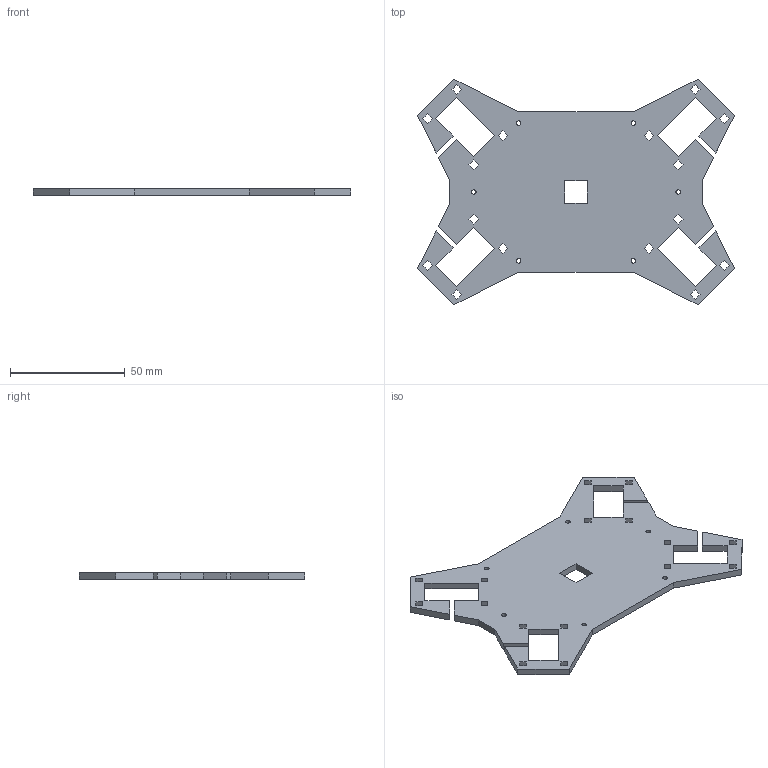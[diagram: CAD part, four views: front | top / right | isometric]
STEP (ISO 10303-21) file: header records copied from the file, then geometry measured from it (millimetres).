
FILE_DESCRIPTION(/* description */ ('STEP AP242 Edition 2','CAx-IF Rec.Pracs.---Representation and Presentation of Product Manufacturing Information (PMI)---4.0---2014-10-13','CAx-IF Rec.Pracs.---3D Tessellated Geometry---0.4---2014-09-14','2;1','CAx-IF Rec.Pracs.---User Defined Attributes---1.5---2016-08-15'),/* implementation_level */ '2;1');
FILE_NAME(/* name */ 'HIRO_Assembly - Part 1 (32)',/* time_stamp */ '2026-11-04T05:23:21Z',/* author */ (''),/* organization */ (''),/* preprocessor_version */ 'ST-DEVELOPER v20',/* originating_system */ 'ONSHAPE BY PTC INC, 1.223',/* authorisation */ ' ');
FILE_SCHEMA (('AP242_MANAGED_MODEL_BASED_3D_ENGINEERING_MIM_LF { 1 0 10303 442 3 1 4 }'));
Length unit declared in the file: metre
Products named in the file (1): Part 1
Bounding box: 138.34 x 98.34 x 3 mm (x, y, z)
Volume: 24672.7 mm3; surface area: 19732.4 mm2
Topology: 1 solids, 1 shells, 124 faces, 366 edges, 244 vertices
Faces by surface type: plane 118, cylinder 6
Full cylindrical faces by diameter (mm): 2 x6
Entity records: 4146 total; most frequent: CARTESIAN_POINT 729, ORIENTED_EDGE 720, DIRECTION 622, EDGE_CURVE 360, LINE 348, VECTOR 348, VERTEX_POINT 244, EDGE_LOOP 176
